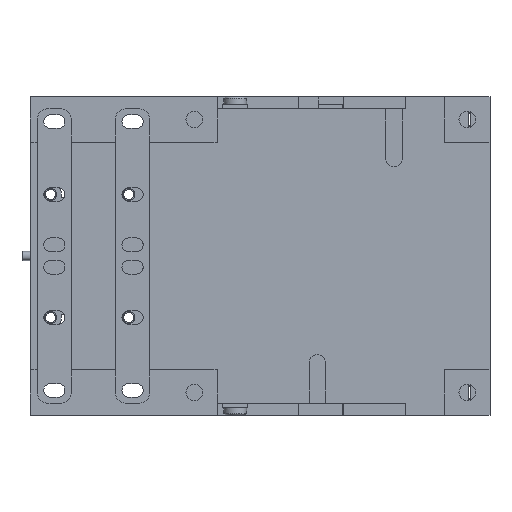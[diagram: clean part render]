
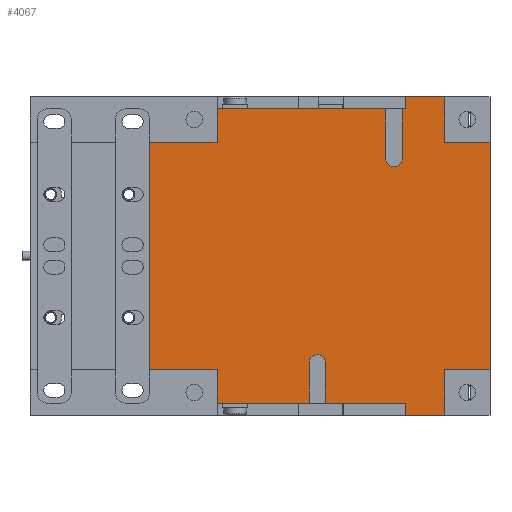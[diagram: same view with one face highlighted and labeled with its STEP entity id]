
A CAD part, front view. The second image highlights one B-rep face of the part: STEP entity #4067.
In plain terms, the highlighted planar face has unit normal (0, -1, 0).
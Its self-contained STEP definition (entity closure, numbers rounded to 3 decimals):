
#226=DIRECTION('',(-1.,0.,0.));
#227=VECTOR('',#226,13.);
#228=CARTESIAN_POINT('',(37.5,-7.75,-52.5));
#229=LINE('',#228,#227);
#686=DIRECTION('',(0.,0.,1.));
#687=VECTOR('',#686,75.);
#688=CARTESIAN_POINT('',(-59.8,-7.75,-37.5));
#689=LINE('',#688,#687);
#690=DIRECTION('',(-1.,0.,0.));
#691=VECTOR('',#690,22.3);
#692=CARTESIAN_POINT('',(-37.5,-7.75,37.5));
#693=LINE('',#692,#691);
#694=DIRECTION('',(0.,0.,-1.));
#695=VECTOR('',#694,11.);
#696=CARTESIAN_POINT('',(-37.5,-7.75,48.5));
#697=LINE('',#696,#695);
#698=DIRECTION('',(0.,0.,-1.));
#699=VECTOR('',#698,16.3);
#700=CARTESIAN_POINT('',(18.15,-7.75,48.5));
#701=LINE('',#700,#699);
#702=CARTESIAN_POINT('',(20.85,-7.75,32.2));
#703=DIRECTION('',(0.,-1.,0.));
#704=DIRECTION('',(-1.,0.,0.));
#705=AXIS2_PLACEMENT_3D('',#702,#703,#704);
#707=DIRECTION('',(0.,0.,-1.));
#708=VECTOR('',#707,16.3);
#709=CARTESIAN_POINT('',(23.55,-7.75,48.5));
#710=LINE('',#709,#708);
#711=DIRECTION('',(0.,0.,1.));
#712=VECTOR('',#711,15.);
#713=CARTESIAN_POINT('',(37.5,-7.75,37.5));
#714=LINE('',#713,#712);
#715=DIRECTION('',(-1.,0.,0.));
#716=VECTOR('',#715,15.);
#717=CARTESIAN_POINT('',(52.5,-7.75,37.5));
#718=LINE('',#717,#716);
#719=DIRECTION('',(1.,0.,0.));
#720=VECTOR('',#719,15.);
#721=CARTESIAN_POINT('',(37.5,-7.75,-37.5));
#722=LINE('',#721,#720);
#723=DIRECTION('',(0.,0.,1.));
#724=VECTOR('',#723,15.);
#725=CARTESIAN_POINT('',(37.5,-7.75,-52.5));
#726=LINE('',#725,#724);
#727=DIRECTION('',(0.,0.,1.));
#728=VECTOR('',#727,13.3);
#729=CARTESIAN_POINT('',(-1.75,-7.75,-48.5));
#730=LINE('',#729,#728);
#731=CARTESIAN_POINT('',(-4.45,-7.75,-35.2));
#732=DIRECTION('',(0.,-1.,0.));
#733=DIRECTION('',(1.,0.,0.));
#734=AXIS2_PLACEMENT_3D('',#731,#732,#733);
#736=DIRECTION('',(0.,0.,1.));
#737=VECTOR('',#736,13.3);
#738=CARTESIAN_POINT('',(-7.15,-7.75,-48.5));
#739=LINE('',#738,#737);
#740=DIRECTION('',(0.,0.,-1.));
#741=VECTOR('',#740,11.);
#742=CARTESIAN_POINT('',(-37.5,-7.75,-37.5));
#743=LINE('',#742,#741);
#744=DIRECTION('',(1.,0.,0.));
#745=VECTOR('',#744,22.3);
#746=CARTESIAN_POINT('',(-59.8,-7.75,-37.5));
#747=LINE('',#746,#745);
#1236=DIRECTION('',(1.,0.,0.));
#1237=VECTOR('',#1236,13.);
#1238=CARTESIAN_POINT('',(24.5,-7.75,52.5));
#1239=LINE('',#1238,#1237);
#1280=DIRECTION('',(1.,0.,0.));
#1281=VECTOR('',#1280,55.65);
#1282=CARTESIAN_POINT('',(-37.5,-7.75,48.5));
#1283=LINE('',#1282,#1281);
#1300=DIRECTION('',(1.,0.,0.));
#1301=VECTOR('',#1300,0.95);
#1302=CARTESIAN_POINT('',(23.55,-7.75,48.5));
#1303=LINE('',#1302,#1301);
#1342=DIRECTION('',(-1.,0.,0.));
#1343=VECTOR('',#1342,26.25);
#1344=CARTESIAN_POINT('',(24.5,-7.75,-48.5));
#1345=LINE('',#1344,#1343);
#1362=DIRECTION('',(-1.,0.,0.));
#1363=VECTOR('',#1362,30.35);
#1364=CARTESIAN_POINT('',(-7.15,-7.75,-48.5));
#1365=LINE('',#1364,#1363);
#1378=DIRECTION('',(0.,0.,-1.));
#1379=VECTOR('',#1378,4.);
#1380=CARTESIAN_POINT('',(24.5,-7.75,-48.5));
#1381=LINE('',#1380,#1379);
#1450=DIRECTION('',(0.,0.,-1.));
#1451=VECTOR('',#1450,75.);
#1452=CARTESIAN_POINT('',(52.5,-7.75,37.5));
#1453=LINE('',#1452,#1451);
#2402=DIRECTION('',(0.,0.,1.));
#2403=VECTOR('',#2402,4.);
#2404=CARTESIAN_POINT('',(24.5,-7.75,48.5));
#2405=LINE('',#2404,#2403);
#2706=CARTESIAN_POINT('',(24.5,-7.75,52.5));
#2707=CARTESIAN_POINT('',(37.5,-7.75,52.5));
#2708=VERTEX_POINT('',#2706);
#2709=VERTEX_POINT('',#2707);
#2710=CARTESIAN_POINT('',(52.5,-7.75,37.5));
#2711=CARTESIAN_POINT('',(52.5,-7.75,-37.5));
#2712=VERTEX_POINT('',#2710);
#2713=VERTEX_POINT('',#2711);
#2714=CARTESIAN_POINT('',(37.5,-7.75,-52.5));
#2715=CARTESIAN_POINT('',(24.5,-7.75,-52.5));
#2716=VERTEX_POINT('',#2714);
#2717=VERTEX_POINT('',#2715);
#2718=CARTESIAN_POINT('',(24.5,-7.75,-48.5));
#2719=VERTEX_POINT('',#2718);
#2720=CARTESIAN_POINT('',(24.5,-7.75,48.5));
#2721=VERTEX_POINT('',#2720);
#2722=CARTESIAN_POINT('',(-37.5,-7.75,-48.5));
#2723=VERTEX_POINT('',#2722);
#2724=CARTESIAN_POINT('',(-37.5,-7.75,48.5));
#2725=VERTEX_POINT('',#2724);
#2726=CARTESIAN_POINT('',(37.5,-7.75,-37.5));
#2727=VERTEX_POINT('',#2726);
#2728=CARTESIAN_POINT('',(-37.5,-7.75,-37.5));
#2729=VERTEX_POINT('',#2728);
#2730=CARTESIAN_POINT('',(-37.5,-7.75,37.5));
#2731=VERTEX_POINT('',#2730);
#2732=CARTESIAN_POINT('',(37.5,-7.75,37.5));
#2733=VERTEX_POINT('',#2732);
#2870=CARTESIAN_POINT('',(-7.15,-7.75,-48.5));
#2871=VERTEX_POINT('',#2870);
#2872=CARTESIAN_POINT('',(-1.75,-7.75,-48.5));
#2873=VERTEX_POINT('',#2872);
#2878=CARTESIAN_POINT('',(18.15,-7.75,48.5));
#2879=VERTEX_POINT('',#2878);
#2880=CARTESIAN_POINT('',(-7.15,-7.75,-35.2));
#2881=VERTEX_POINT('',#2880);
#2882=CARTESIAN_POINT('',(-1.75,-7.75,-35.2));
#2883=VERTEX_POINT('',#2882);
#2884=CARTESIAN_POINT('',(18.15,-7.75,32.2));
#2885=CARTESIAN_POINT('',(23.55,-7.75,32.2));
#2886=VERTEX_POINT('',#2884);
#2887=VERTEX_POINT('',#2885);
#2888=CARTESIAN_POINT('',(23.55,-7.75,48.5));
#2889=VERTEX_POINT('',#2888);
#2978=CARTESIAN_POINT('',(-59.8,-7.75,-37.5));
#2979=CARTESIAN_POINT('',(-59.8,-7.75,37.5));
#2980=VERTEX_POINT('',#2978);
#2981=VERTEX_POINT('',#2979);
#4018=CARTESIAN_POINT('',(0.,-7.75,0.));
#4019=DIRECTION('',(0.,-1.,0.));
#4020=DIRECTION('',(0.,0.,-1.));
#4021=AXIS2_PLACEMENT_3D('',#4018,#4019,#4020);
#4022=PLANE('',#4021);
#4023=ORIENTED_EDGE('',*,*,#3921,.T.);
#4024=ORIENTED_EDGE('',*,*,#3988,.F.);
#4026=ORIENTED_EDGE('',*,*,#4025,.F.);
#4028=ORIENTED_EDGE('',*,*,#4027,.T.);
#4030=ORIENTED_EDGE('',*,*,#4029,.T.);
#4032=ORIENTED_EDGE('',*,*,#4031,.T.);
#4034=ORIENTED_EDGE('',*,*,#4033,.F.);
#4036=ORIENTED_EDGE('',*,*,#4035,.T.);
#4038=ORIENTED_EDGE('',*,*,#4037,.T.);
#4040=ORIENTED_EDGE('',*,*,#4039,.T.);
#4042=ORIENTED_EDGE('',*,*,#4041,.F.);
#4044=ORIENTED_EDGE('',*,*,#4043,.F.);
#4046=ORIENTED_EDGE('',*,*,#4045,.T.);
#4048=ORIENTED_EDGE('',*,*,#4047,.F.);
#4049=ORIENTED_EDGE('',*,*,#3434,.F.);
#4050=ORIENTED_EDGE('',*,*,#3469,.T.);
#4052=ORIENTED_EDGE('',*,*,#4051,.F.);
#4054=ORIENTED_EDGE('',*,*,#4053,.T.);
#4056=ORIENTED_EDGE('',*,*,#4055,.T.);
#4058=ORIENTED_EDGE('',*,*,#4057,.T.);
#4060=ORIENTED_EDGE('',*,*,#4059,.F.);
#4062=ORIENTED_EDGE('',*,*,#4061,.T.);
#4063=ORIENTED_EDGE('',*,*,#3498,.F.);
#4064=ORIENTED_EDGE('',*,*,#3545,.F.);
#4065=EDGE_LOOP('',(#4023,#4024,#4026,#4028,#4030,#4032,#4034,#4036,#4038,#4040,
#4042,#4044,#4046,#4048,#4049,#4050,#4052,#4054,#4056,#4058,#4060,#4062,#4063,
#4064));
#4066=FACE_OUTER_BOUND('',#4065,.F.);
#4067=ADVANCED_FACE('',(#4066),#4022,.T.);
#706=CIRCLE('',#705,2.7);
#735=CIRCLE('',#734,2.7);
#3434=EDGE_CURVE('',#2716,#2727,#726,.T.);
#3469=EDGE_CURVE('',#2716,#2717,#229,.T.);
#3498=EDGE_CURVE('',#2729,#2723,#743,.T.);
#3545=EDGE_CURVE('',#2980,#2729,#747,.T.);
#3921=EDGE_CURVE('',#2980,#2981,#689,.T.);
#3988=EDGE_CURVE('',#2731,#2981,#693,.T.);
#4025=EDGE_CURVE('',#2725,#2731,#697,.T.);
#4027=EDGE_CURVE('',#2725,#2879,#1283,.T.);
#4029=EDGE_CURVE('',#2879,#2886,#701,.T.);
#4031=EDGE_CURVE('',#2886,#2887,#706,.T.);
#4033=EDGE_CURVE('',#2889,#2887,#710,.T.);
#4035=EDGE_CURVE('',#2889,#2721,#1303,.T.);
#4037=EDGE_CURVE('',#2721,#2708,#2405,.T.);
#4039=EDGE_CURVE('',#2708,#2709,#1239,.T.);
#4041=EDGE_CURVE('',#2733,#2709,#714,.T.);
#4043=EDGE_CURVE('',#2712,#2733,#718,.T.);
#4045=EDGE_CURVE('',#2712,#2713,#1453,.T.);
#4047=EDGE_CURVE('',#2727,#2713,#722,.T.);
#4051=EDGE_CURVE('',#2719,#2717,#1381,.T.);
#4053=EDGE_CURVE('',#2719,#2873,#1345,.T.);
#4055=EDGE_CURVE('',#2873,#2883,#730,.T.);
#4057=EDGE_CURVE('',#2883,#2881,#735,.T.);
#4059=EDGE_CURVE('',#2871,#2881,#739,.T.);
#4061=EDGE_CURVE('',#2871,#2723,#1365,.T.);
